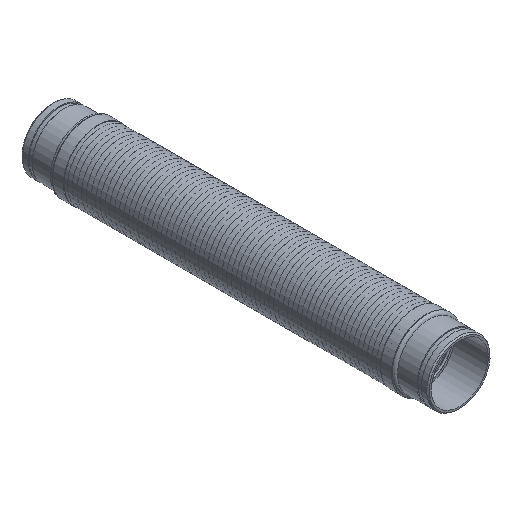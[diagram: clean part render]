
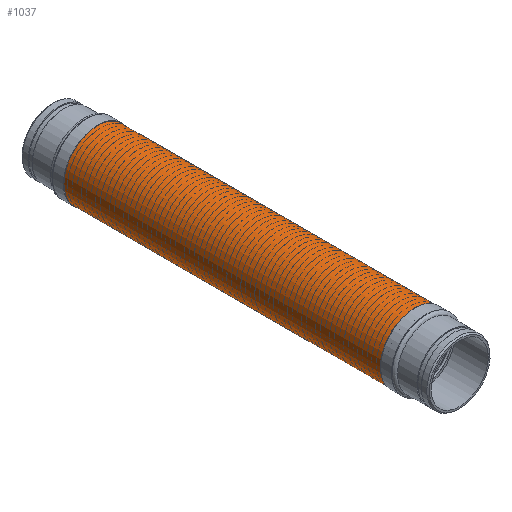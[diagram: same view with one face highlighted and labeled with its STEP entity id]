
A CAD part, isometric view. The second image highlights one B-rep face of the part: STEP entity #1037.
In plain terms, the highlighted cylindrical face has radius 75.565 mm (diameter 151.13 mm), a full revolution.
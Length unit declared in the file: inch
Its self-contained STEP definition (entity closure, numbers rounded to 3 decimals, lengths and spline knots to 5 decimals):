
#1003=CARTESIAN_POINT('',(-2.975,-15.,0.));
#1004=VERTEX_POINT('',#1003);
#1005=CARTESIAN_POINT('',(0.0,-15.,0.0));
#1006=DIRECTION('',(0.0,1.0,0.0));
#1007=DIRECTION('',(1.0,0.0,0.0));
#1008=AXIS2_PLACEMENT_3D('',#1005,#1006,#1007);
#1009=CIRCLE('',#1008,2.975);
#1010=EDGE_CURVE('',#1004,#1004,#1009,.T.);
#1018=CARTESIAN_POINT('',(0.0,0.0,0.0));
#1019=DIRECTION('',(0.0,1.0,0.0));
#1020=DIRECTION('',(1.0,0.0,0.0));
#1021=AXIS2_PLACEMENT_3D('',#1018,#1019,#1020);
#1022=CYLINDRICAL_SURFACE('',#1021,2.975);
#1023=ORIENTED_EDGE('',*,*,#1010,.T.);
#1024=EDGE_LOOP('',(#1023));
#1025=FACE_OUTER_BOUND('',#1024,.T.);
#1026=CARTESIAN_POINT('',(-2.975,15.,0.));
#1027=VERTEX_POINT('',#1026);
#1028=CARTESIAN_POINT('',(0.0,15.,0.0));
#1029=DIRECTION('',(0.0,-1.0,0.0));
#1030=DIRECTION('',(1.0,0.0,0.0));
#1031=AXIS2_PLACEMENT_3D('',#1028,#1029,#1030);
#1032=CIRCLE('',#1031,2.975);
#1033=EDGE_CURVE('',#1027,#1027,#1032,.T.);
#1034=ORIENTED_EDGE('',*,*,#1033,.T.);
#1035=EDGE_LOOP('',(#1034));
#1036=FACE_BOUND('',#1035,.T.);
#1037=ADVANCED_FACE('',(#1025,#1036),#1022,.T.);
